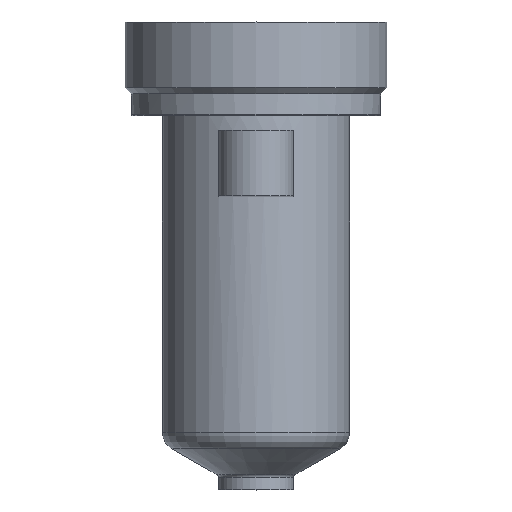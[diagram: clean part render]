
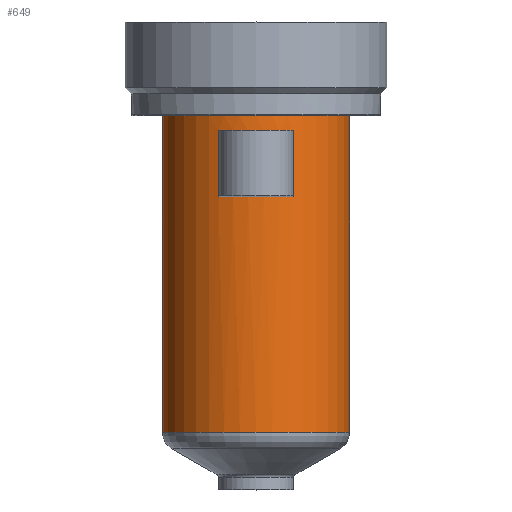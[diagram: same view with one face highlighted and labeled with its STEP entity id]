
A CAD part, top view. The second image highlights one B-rep face of the part: STEP entity #649.
In plain terms, the highlighted cylindrical face has radius 15 mm (diameter 30 mm), a partial arc.
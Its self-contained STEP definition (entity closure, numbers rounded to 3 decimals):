
#161=DIRECTION('',(0.,-1.,0.));
#162=VECTOR('',#161,50.783);
#163=CARTESIAN_POINT('',(15.,0.,0.));
#164=LINE('',#163,#162);
#165=CARTESIAN_POINT('',(0.,-50.783,0.));
#166=DIRECTION('',(0.,1.,0.));
#167=DIRECTION('',(-1.,0.,0.));
#168=AXIS2_PLACEMENT_3D('',#165,#166,#167);
#170=DIRECTION('',(0.,1.,0.));
#171=VECTOR('',#170,50.783);
#172=CARTESIAN_POINT('',(-15.,-50.783,0.));
#173=LINE('',#172,#171);
#174=CARTESIAN_POINT('',(0.,0.,0.));
#175=DIRECTION('',(0.,1.,0.));
#176=DIRECTION('',(-1.,0.,0.));
#177=AXIS2_PLACEMENT_3D('',#174,#175,#176);
#255=DIRECTION('',(0.,-1.,0.));
#256=VECTOR('',#255,10.5);
#257=CARTESIAN_POINT('',(-6.,-2.5,13.748));
#258=LINE('',#257,#256);
#263=CARTESIAN_POINT('',(0.,-13.,0.));
#264=DIRECTION('',(0.,1.,0.));
#265=DIRECTION('',(-0.4,0.,0.917));
#266=AXIS2_PLACEMENT_3D('',#263,#264,#265);
#298=CARTESIAN_POINT('',(0.,-2.5,0.));
#299=DIRECTION('',(0.,-1.,0.));
#300=DIRECTION('',(0.4,0.,0.917));
#301=AXIS2_PLACEMENT_3D('',#298,#299,#300);
#303=DIRECTION('',(0.,-1.,0.));
#304=VECTOR('',#303,10.5);
#305=CARTESIAN_POINT('',(6.,-2.5,13.748));
#306=LINE('',#305,#304);
#390=CARTESIAN_POINT('',(-15.,0.,0.));
#391=CARTESIAN_POINT('',(15.,0.,0.));
#392=VERTEX_POINT('',#390);
#393=VERTEX_POINT('',#391);
#402=CARTESIAN_POINT('',(6.,-2.5,13.748));
#403=VERTEX_POINT('',#402);
#404=CARTESIAN_POINT('',(-6.,-2.5,13.748));
#405=VERTEX_POINT('',#404);
#414=CARTESIAN_POINT('',(15.,-50.783,0.));
#415=VERTEX_POINT('',#414);
#424=CARTESIAN_POINT('',(-15.,-50.783,0.));
#425=VERTEX_POINT('',#424);
#426=CARTESIAN_POINT('',(-6.,-13.,13.748));
#427=CARTESIAN_POINT('',(6.,-13.,13.748));
#428=VERTEX_POINT('',#426);
#429=VERTEX_POINT('',#427);
#627=CARTESIAN_POINT('',(0.,16.4,0.));
#628=DIRECTION('',(0.,-1.,0.));
#629=DIRECTION('',(-1.,0.,0.));
#630=AXIS2_PLACEMENT_3D('',#627,#628,#629);
#631=CYLINDRICAL_SURFACE('',#630,15.);
#632=ORIENTED_EDGE('',*,*,#621,.T.);
#634=ORIENTED_EDGE('',*,*,#633,.F.);
#635=ORIENTED_EDGE('',*,*,#617,.T.);
#636=ORIENTED_EDGE('',*,*,#607,.T.);
#637=EDGE_LOOP('',(#632,#634,#635,#636));
#638=FACE_OUTER_BOUND('',#637,.F.);
#640=ORIENTED_EDGE('',*,*,#639,.T.);
#642=ORIENTED_EDGE('',*,*,#641,.T.);
#644=ORIENTED_EDGE('',*,*,#643,.F.);
#646=ORIENTED_EDGE('',*,*,#645,.T.);
#647=EDGE_LOOP('',(#640,#642,#644,#646));
#648=FACE_BOUND('',#647,.F.);
#649=ADVANCED_FACE('',(#638,#648),#631,.T.);
#169=CIRCLE('',#168,15.);
#178=CIRCLE('',#177,15.);
#267=CIRCLE('',#266,15.);
#302=CIRCLE('',#301,15.);
#607=EDGE_CURVE('',#392,#393,#178,.T.);
#617=EDGE_CURVE('',#425,#392,#173,.T.);
#621=EDGE_CURVE('',#393,#415,#164,.T.);
#633=EDGE_CURVE('',#425,#415,#169,.T.);
#639=EDGE_CURVE('',#405,#428,#258,.T.);
#641=EDGE_CURVE('',#428,#429,#267,.T.);
#643=EDGE_CURVE('',#403,#429,#306,.T.);
#645=EDGE_CURVE('',#403,#405,#302,.T.);
